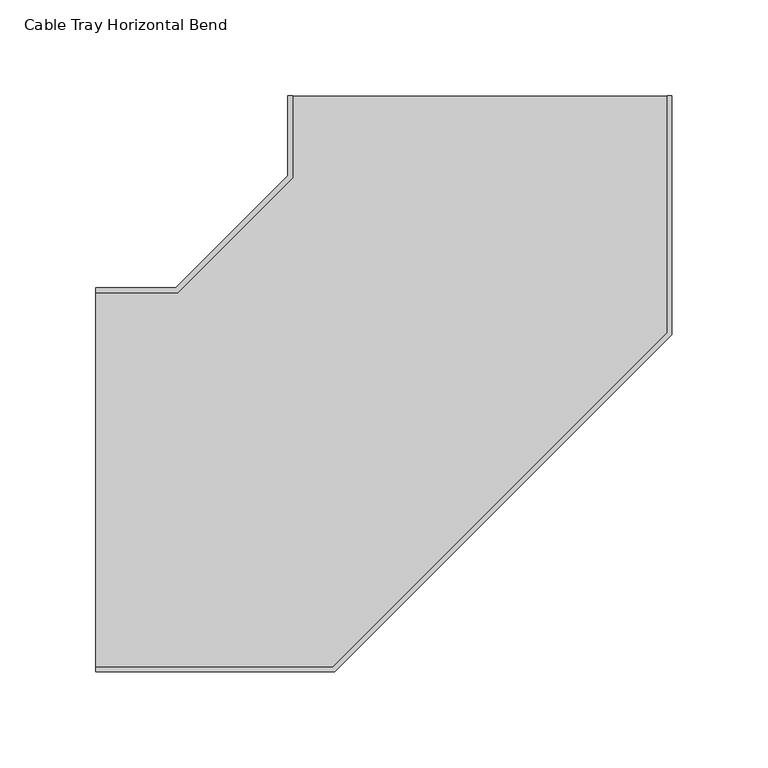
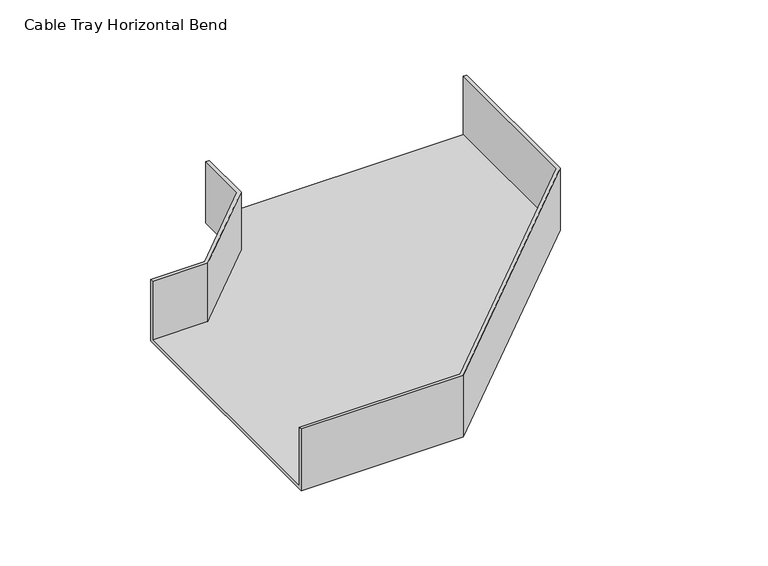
"""IFC4 building model written with IfcOpenShell, lengths in millimetres: cable carrier fitting geometry, Cable Tray Horizontal Bend : ELEC_MAIN_CT_N2402."""

from ifc_helpers import new_model, si_unit, origin, place, context, project, spatial, faceted_brep, source, transform, mapped, element, save


def cable_tray_horizontal_bend_082565e2(model_context):
    return source(origin(), model_context, "Body", "Brep", [
        faceted_brep([(-200.0, -100.0, -25.0), (-200.0, -100.0, 25.0), (-200.0, -97.46, 25.0), (-200.0, -97.46, -22.46), (-200.0, 97.46, -22.46), (-200.0, 97.46, 25.0), (-200.0, 100.0, 25.0), (-200.0, 100.0, -25.0), (100.0, 200.0, -25.0), (-100.0, 200.0, -25.0), (-100.0, 200.0, 25.0), (-97.46, 200.0, 25.0), (-97.46, 200.0, -22.46), (97.46, 200.0, -22.46), (97.46, 200.0, 25.0), (100.0, 200.0, 25.0), (-75.7359313, -100.0, -25.0), (-75.7359313, -100.0, 25.0), (100.0, 75.7359313, 25.0), (97.46, 76.7880337, 25.0), (-76.7880337, -97.46, 25.0), (-76.7880337, -97.46, -22.46), (97.46, 76.7880337, -22.46), (-97.46, 157.5265413, -22.46), (-157.5265413, 97.46, -22.46), (-157.5265413, 97.46, 25.0), (-97.46, 157.5265413, 25.0), (-100.0, 158.5786438, 25.0), (-158.5786438, 100.0, 25.0), (-158.5786438, 100.0, -25.0), (-100.0, 158.5786438, -25.0), (100.0, 75.7359313, -25.0)], [[[0, 1, 2, 3, 4, 5, 6, 7]], [[8, 9, 10, 11, 12, 13, 14, 15]], [[1, 0, 16, 17]], [[2, 1, 17, 18, 15, 14, 19, 20]], [[3, 2, 20, 21]], [[4, 3, 21, 22, 13, 12, 23, 24]], [[5, 4, 24, 25]], [[6, 5, 25, 26, 11, 10, 27, 28]], [[7, 6, 28, 29]], [[0, 7, 29, 30, 9, 8, 31, 16]], [[17, 16, 31, 18]], [[21, 20, 19, 22]], [[25, 24, 23, 26]], [[29, 28, 27, 30]], [[18, 31, 8, 15]], [[22, 19, 14, 13]], [[26, 23, 12, 11]], [[30, 27, 10, 9]]]),
    ])


if __name__ == "__main__":
    model = new_model("IFC4")
    model_context = context("Model", 3, world=origin())
    ifc_project = project(units=[si_unit("LENGTHUNIT", "METRE", prefix="MILLI")], contexts=[model_context])
    site = spatial("IfcSite", under=ifc_project)
    building = spatial("IfcBuilding", under=site)
    placement = place(None, origin())
    cable_tray_horizontal_bend_shape = cable_tray_horizontal_bend_082565e2(model_context)
    element("IfcCableCarrierFitting", 1, ObjectType="Cable Tray Horizontal Bend : ELEC_MAIN_CT_N2402", at=placement, inside=building, context=model_context, shape_type="MappedRepresentation", body=[
        mapped(cable_tray_horizontal_bend_shape, transform((0.0, 0.0, 0.0), x_axis=(1.0, 0.0, 0.0), y_axis=(0.0, 1.0, 0.0), z_axis=(0.0, 0.0, 1.0))),
    ])
    save(model, "model.ifc")
